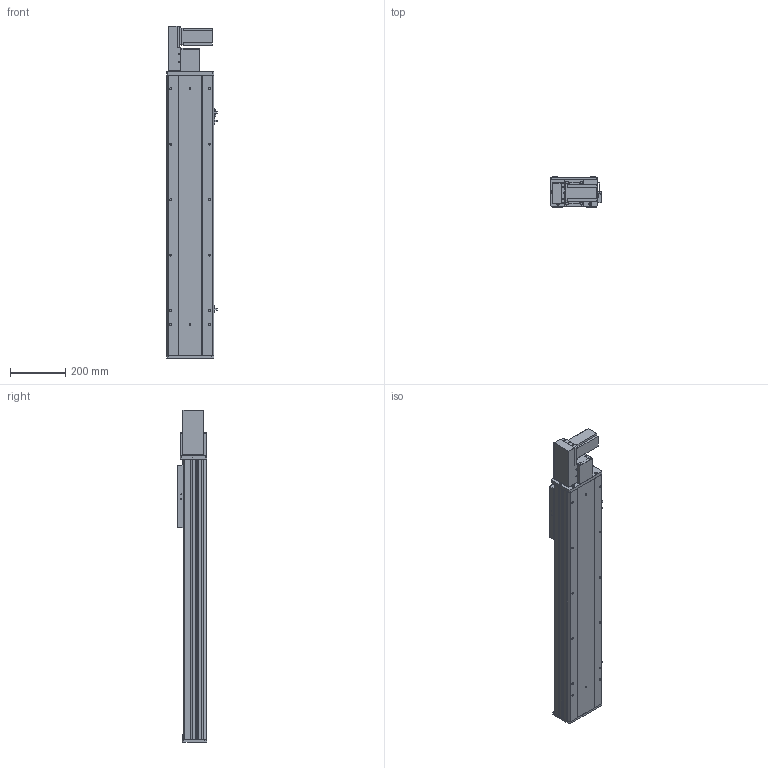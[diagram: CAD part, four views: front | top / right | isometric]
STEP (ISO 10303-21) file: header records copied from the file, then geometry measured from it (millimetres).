
FILE_DESCRIPTION (( 'STEP AP203' ), '1' );
FILE_NAME ('Y170CB-D105-S700-BL-P400W.STEP', '2020-02-20T01:10:56', ( '微软用户' ), ( '微软中国' ), 'SwSTEP 2.0', 'SolidWorks 2017', '' );
FILE_SCHEMA (( 'CONFIG_CONTROL_DESIGN' ));
Length unit declared in the file: millimetre
Products named in the file (18): 70CB-掛极-; 70CB-詩湍--; --70CB --喘謫眊楊擘啣-; Y100-135俋离換覜ん--; Y170CB-陔俋离換覜結え---; B-源倛裔啣; 70B喘謫眊----; 70CB-耜裔啣-; 17B-耜蚾蟀諉啣----; Y1埴倛裔; 70C--詩湍揤踡え-; 0B-萇儂楊擘啣; Y170CB-D105-S700-BL-P400W; 70CB--耜裔; san松下电机400不带刹车----; 70C-雄赽釱-奻-; Y70俋欶BR----; 0C--雄赽釱俋欶-170
Assembly tree (21 placements, depth 2):
  Y170CB-D105-S700-BL-P400W
    B-源倛裔啣
    17B-耜蚾蟀諉啣----
    0B-萇儂楊擘啣
    san松下电机400不带刹车----
    Y70俋欶BR----
    70CB-掛极-
    --70CB --喘謫眊楊擘啣-
    70CB-耜裔啣-  x2
    70C--詩湍揤踡え-  x2
    70CB--耜裔
    70C-雄赽釱-奻-
    0C--雄赽釱俋欶-170
    70CB-詩湍--
    Y100-135俋离換覜ん--  x3
    Y170CB-陔俋离換覜結え---
    70B喘謫眊----
    Y1埴倛裔
Bounding box: 183.5 x 107 x 1197 mm (x, y, z)
Volume: 5355784.2 mm3; surface area: 1911319.9 mm2
Topology: 21 solids, 21 shells, 999 faces, 2669 edges, 1770 vertices
Faces by surface type: cylinder 511, plane 464, cone 24
Entity records: 31736 total; most frequent: CARTESIAN_POINT 5796, DIRECTION 5158, ORIENTED_EDGE 4820, EDGE_CURVE 2410, AXIS2_PLACEMENT_3D 1884, VERTEX_POINT 1600, VECTOR 1390, LINE 1390
